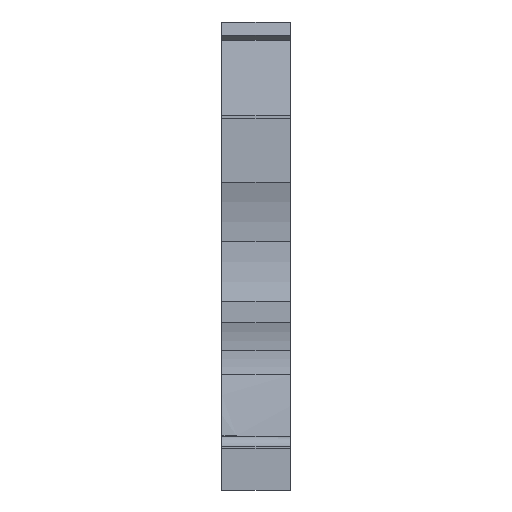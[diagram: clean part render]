
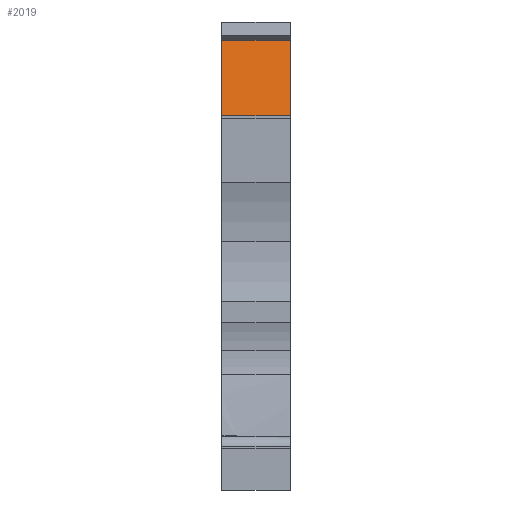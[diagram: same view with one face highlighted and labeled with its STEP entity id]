
A CAD part, front view. The second image highlights one B-rep face of the part: STEP entity #2019.
In plain terms, the highlighted planar face has unit normal (0, -0.985, 0.174).
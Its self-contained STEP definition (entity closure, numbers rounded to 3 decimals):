
#479=CARTESIAN_POINT('',(0.,1.553,27.809));
#480=VERTEX_POINT('',#479);
#487=CARTESIAN_POINT('',(0.,2.651,34.038));
#488=VERTEX_POINT('',#487);
#489=CARTESIAN_POINT('',(0.,1.553,27.809));
#490=DIRECTION('',(-0.,0.174,0.985));
#491=VECTOR('',#490,6.325);
#492=LINE('',#489,#491);
#493=EDGE_CURVE('',#480,#488,#492,.T.);
#1907=CARTESIAN_POINT('',(5.15,2.651,34.038));
#1908=VERTEX_POINT('',#1907);
#1909=CARTESIAN_POINT('',(5.15,2.651,34.038));
#1910=DIRECTION('',(-1.,0.,0.));
#1911=VECTOR('',#1910,5.15);
#1912=LINE('',#1909,#1911);
#1913=EDGE_CURVE('',#1908,#488,#1912,.T.);
#1996=CARTESIAN_POINT('',(5.15,1.553,27.809));
#1997=DIRECTION('',(0.,0.985,-0.174));
#1998=DIRECTION('',(0.,-0.174,-0.985));
#1999=AXIS2_PLACEMENT_3D('',#1996,#1997,#1998);
#2000=PLANE('',#1999);
#2001=ORIENTED_EDGE('',*,*,#1913,.T.);
#2002=ORIENTED_EDGE('',*,*,#493,.F.);
#2003=CARTESIAN_POINT('',(5.15,1.553,27.809));
#2004=VERTEX_POINT('',#2003);
#2005=CARTESIAN_POINT('',(0.,1.553,27.809));
#2006=DIRECTION('',(1.,-0.,-0.));
#2007=VECTOR('',#2006,5.15);
#2008=LINE('',#2005,#2007);
#2009=EDGE_CURVE('',#480,#2004,#2008,.T.);
#2010=ORIENTED_EDGE('',*,*,#2009,.T.);
#2011=CARTESIAN_POINT('',(5.15,2.651,34.038));
#2012=DIRECTION('',(0.,-0.174,-0.985));
#2013=VECTOR('',#2012,6.325);
#2014=LINE('',#2011,#2013);
#2015=EDGE_CURVE('',#1908,#2004,#2014,.T.);
#2016=ORIENTED_EDGE('',*,*,#2015,.F.);
#2017=EDGE_LOOP('',(#2001,#2002,#2010,#2016));
#2018=FACE_BOUND('',#2017,.T.);
#2019=ADVANCED_FACE('',(#2018),#2000,.F.);
